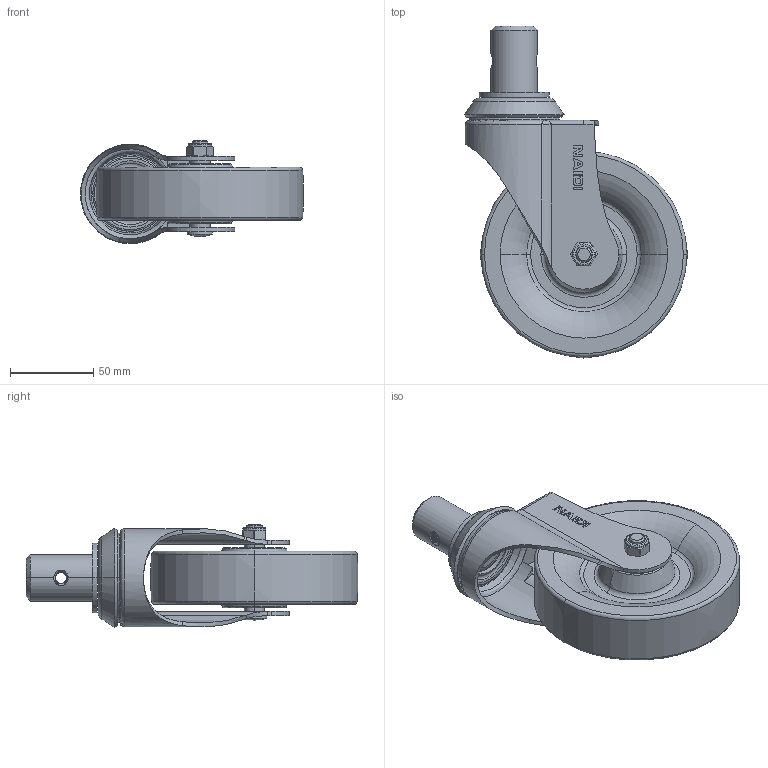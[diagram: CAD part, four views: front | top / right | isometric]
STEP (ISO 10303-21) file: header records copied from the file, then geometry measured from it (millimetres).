
FILE_DESCRIPTION((''),'2;1');
FILE_NAME('B55155_ASM','2024-08-13T',('Lenovo'),(''),'PRO/ENGINEER BY PARAMETRIC TECHNOLOGY CORPORATION, 2010280','PRO/ENGINEER BY PARAMETRIC TECHNOLOGY CORPORATION, 2010280','');
FILE_SCHEMA(('CONFIG_CONTROL_DESIGN'));
Length unit declared in the file: millimetre
Products named in the file (8): B5515-311; 570-03A; B555-986; 5710-055; 500-54; 570-33; 570-34; B55155_ASM
Assembly tree (7 placements, depth 2):
  B55155_ASM
    B5515-311
    570-03A
    B555-986
    5710-055
    500-54
    570-33
    570-34
Bounding box: 134.41 x 199.94 x 62.25 mm (x, y, z)
Volume: 385034.4 mm3; surface area: 94329.8 mm2
Topology: 7 solids, 7 shells, 339 faces, 824 edges, 510 vertices
Faces by surface type: plane 102, cylinder 93, torus 51, bspline 49, cone 36, extrusion 6, sphere 2
Entity records: 16795 total; most frequent: CARTESIAN_POINT 9046, ORIENTED_EDGE 1644, DIRECTION 1473, EDGE_CURVE 822, AXIS2_PLACEMENT_3D 565, VERTEX_POINT 510, EDGE_LOOP 368, VECTOR 343
